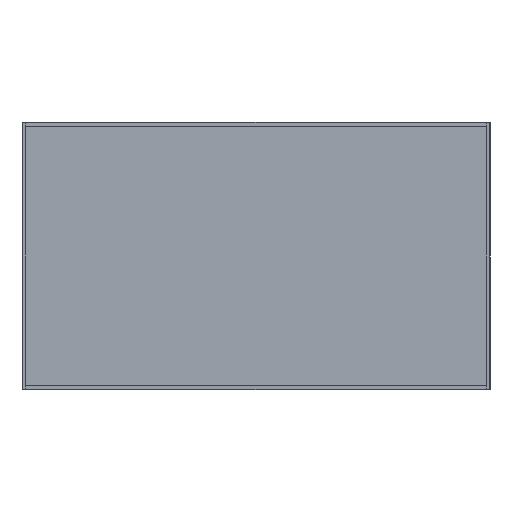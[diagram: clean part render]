
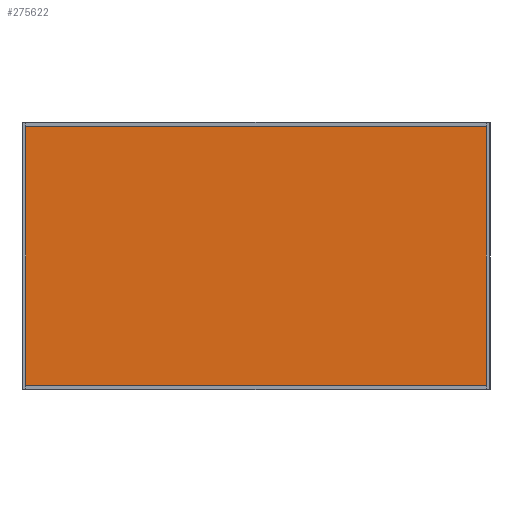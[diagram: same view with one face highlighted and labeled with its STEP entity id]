
A CAD part, top view. The second image highlights one B-rep face of the part: STEP entity #275622.
In plain terms, the highlighted planar face has unit normal (0, 0, 1).
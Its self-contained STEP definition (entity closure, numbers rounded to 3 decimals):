
#2932 = ORIENTED_EDGE ( 'NONE', *, *, #134556, .T. ) ;
#7901 = B_SPLINE_CURVE_WITH_KNOTS ( 'NONE', 3,
 ( #114106, #234102, #240288, #19362 ),
 .UNSPECIFIED., .F., .F.,
 ( 4, 4 ),
 ( 0., 1. ),
 .UNSPECIFIED. ) ;
#19362 = CARTESIAN_POINT ( 'NONE',  ( -717.561, 405.962, 1.97 ) ) ;
#29694 = CARTESIAN_POINT ( 'NONE',  ( -717.561, 135.709, 1.97 ) ) ;
#33803 = EDGE_CURVE ( 'NONE', #188163, #253784, #73047, .T. ) ;
#41726 = ORIENTED_EDGE ( 'NONE', *, *, #33803, .T. ) ;
#43894 = VERTEX_POINT ( 'NONE', #181337 ) ;
#53726 = CARTESIAN_POINT ( 'NONE',  ( -717.561, -404.797, 1.97 ) ) ;
#59929 = CARTESIAN_POINT ( 'NONE',  ( 0.489, 0.582, 1.97 ) ) ;
#63150 = CARTESIAN_POINT ( 'NONE',  ( -238.861, -404.797, 1.97 ) ) ;
#71031 = CARTESIAN_POINT ( 'NONE',  ( 718.538, -404.797, 1.97 ) ) ;
#73047 = B_SPLINE_CURVE_WITH_KNOTS ( 'NONE', 3,
 ( #105410, #29694, #195517, #125974 ),
 .UNSPECIFIED., .F., .F.,
 ( 4, 4 ),
 ( 0., 1. ),
 .UNSPECIFIED. ) ;
#77788 = PLANE ( 'NONE',  #148393 ) ;
#91135 = CARTESIAN_POINT ( 'NONE',  ( 718.538, 405.962, 1.97 ) ) ;
#91322 = B_SPLINE_CURVE_WITH_KNOTS ( 'NONE', 3,
 ( #301568, #63150, #176950, #110546 ),
 .UNSPECIFIED., .F., .F.,
 ( 4, 4 ),
 ( 0., 1. ),
 .UNSPECIFIED. ) ;
#95771 = CARTESIAN_POINT ( 'NONE',  ( 718.538, -134.544, 1.97 ) ) ;
#96776 = EDGE_CURVE ( 'NONE', #253784, #243455, #91322, .T. ) ;
#98169 = ORIENTED_EDGE ( 'NONE', *, *, #96776, .T. ) ;
#102695 = ORIENTED_EDGE ( 'NONE', *, *, #221886, .T. ) ;
#105410 = CARTESIAN_POINT ( 'NONE',  ( -717.561, 405.962, 1.97 ) ) ;
#110546 = CARTESIAN_POINT ( 'NONE',  ( 718.538, -404.797, 1.97 ) ) ;
#114106 = CARTESIAN_POINT ( 'NONE',  ( 718.538, 405.962, 1.97 ) ) ;
#119468 = CARTESIAN_POINT ( 'NONE',  ( 718.538, -404.797, 1.97 ) ) ;
#123566 = CARTESIAN_POINT ( 'NONE',  ( -717.561, 405.962, 1.97 ) ) ;
#125132 = FACE_OUTER_BOUND ( 'NONE', #221175, .T. ) ;
#125974 = CARTESIAN_POINT ( 'NONE',  ( -717.561, -404.797, 1.97 ) ) ;
#134556 = EDGE_CURVE ( 'NONE', #243455, #43894, #271705, .T. ) ;
#143146 = CARTESIAN_POINT ( 'NONE',  ( 718.538, 135.709, 1.97 ) ) ;
#148393 = AXIS2_PLACEMENT_3D ( 'NONE', #59929, #174092, #219883 ) ;
#174092 = DIRECTION ( 'NONE',  ( 0., 0., 1. ) ) ;
#176950 = CARTESIAN_POINT ( 'NONE',  ( 239.838, -404.797, 1.97 ) ) ;
#181337 = CARTESIAN_POINT ( 'NONE',  ( 718.538, 405.962, 1.97 ) ) ;
#188163 = VERTEX_POINT ( 'NONE', #123566 ) ;
#195517 = CARTESIAN_POINT ( 'NONE',  ( -717.561, -134.544, 1.97 ) ) ;
#219883 = DIRECTION ( 'NONE',  ( 1., 0., 0. ) ) ;
#221175 = EDGE_LOOP ( 'NONE', ( #98169, #2932, #102695, #41726 ) ) ;
#221886 = EDGE_CURVE ( 'NONE', #43894, #188163, #7901, .T. ) ;
#234102 = CARTESIAN_POINT ( 'NONE',  ( 239.838, 405.962, 1.97 ) ) ;
#240288 = CARTESIAN_POINT ( 'NONE',  ( -238.861, 405.962, 1.97 ) ) ;
#243455 = VERTEX_POINT ( 'NONE', #71031 ) ;
#253784 = VERTEX_POINT ( 'NONE', #53726 ) ;
#271705 = B_SPLINE_CURVE_WITH_KNOTS ( 'NONE', 3,
 ( #119468, #95771, #143146, #91135 ),
 .UNSPECIFIED., .F., .F.,
 ( 4, 4 ),
 ( 0., 1. ),
 .UNSPECIFIED. ) ;
#275622 = ADVANCED_FACE ( 'NONE', ( #125132 ), #77788, .T. ) ;
#301568 = CARTESIAN_POINT ( 'NONE',  ( -717.561, -404.797, 1.97 ) ) ;
